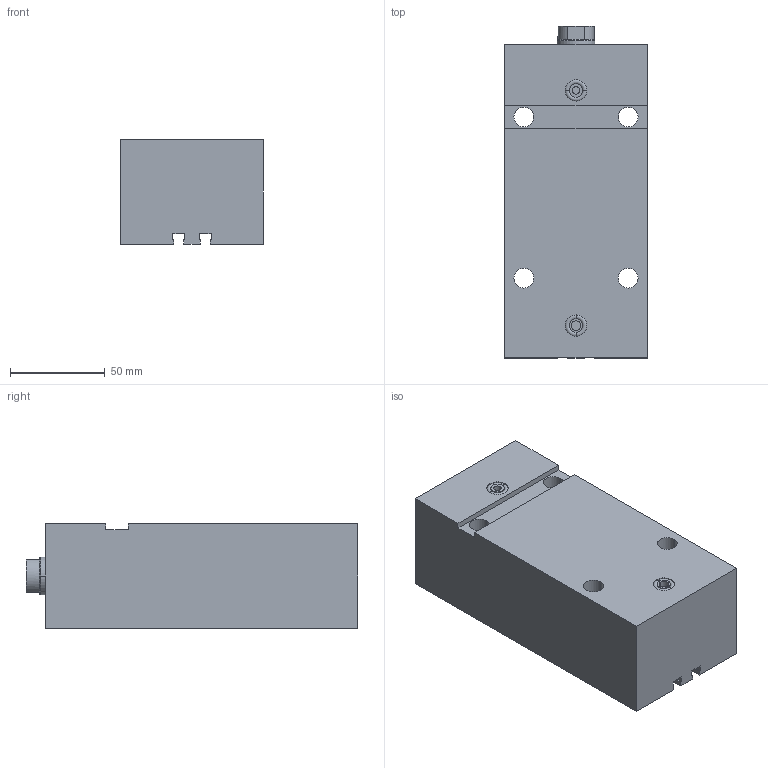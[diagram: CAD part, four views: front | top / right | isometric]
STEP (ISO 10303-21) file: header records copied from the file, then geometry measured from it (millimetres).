
FILE_DESCRIPTION (( 'STEP AP203' ), '1' );
FILE_NAME ('GERMA_Blockzylinder_704-032-100.STEP', '2016-07-23T08:49:44', ( '' ), ( '' ), 'SwSTEP 2.0', 'SolidWorks 2015', '' );
FILE_SCHEMA (( 'CONFIG_CONTROL_DESIGN' ));
Length unit declared in the file: millimetre
Products named in the file (3): GERMA_Blockzylinder_704-032-100; GH-700-032_GH-704-032-100; Kolben_MT 70x-032_Kolben_MT DU.32-Hub100-IG
Assembly tree (2 placements, depth 2):
  GERMA_Blockzylinder_704-032-100
    GH-700-032_GH-704-032-100
    Kolben_MT 70x-032_Kolben_MT DU.32-Hub100-IG
Bounding box: 75 x 175 x 55 mm (x, y, z)
Volume: 600301.2 mm3; surface area: 90247.3 mm2
Topology: 2 solids, 2 shells, 104 faces, 242 edges, 150 vertices
Faces by surface type: cylinder 43, plane 43, cone 14, torus 4
Entity records: 3246 total; most frequent: DIRECTION 555, CARTESIAN_POINT 495, ORIENTED_EDGE 472, EDGE_CURVE 236, AXIS2_PLACEMENT_3D 210, VERTEX_POINT 150, LINE 135, VECTOR 135
